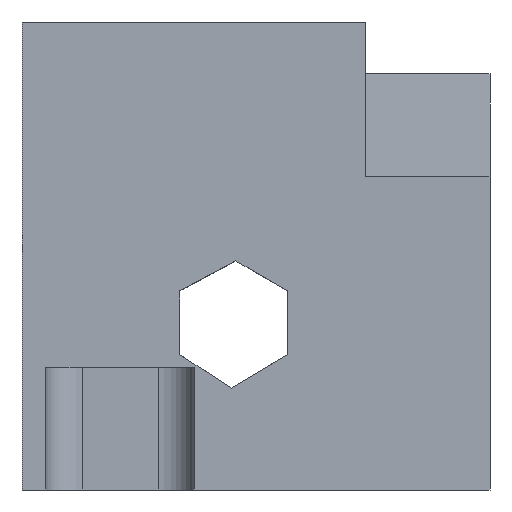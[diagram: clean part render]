
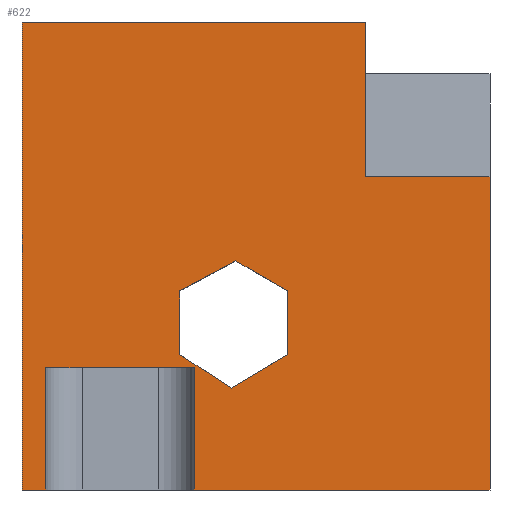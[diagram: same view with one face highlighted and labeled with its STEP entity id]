
A CAD part, left-side view. The second image highlights one B-rep face of the part: STEP entity #622.
In plain terms, the highlighted planar face has unit normal (-1, 0, 0).
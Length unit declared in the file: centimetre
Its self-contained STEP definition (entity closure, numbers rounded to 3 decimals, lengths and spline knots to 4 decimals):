
#20 = ORIENTED_EDGE ( 'NONE', *, *, #807, .T. ) ;
#26 = ORIENTED_EDGE ( 'NONE', *, *, #966, .F. ) ;
#28 = ORIENTED_EDGE ( 'NONE', *, *, #382, .F. ) ;
#36 = ORIENTED_EDGE ( 'NONE', *, *, #840, .F. ) ;
#37 = VERTEX_POINT ( 'NONE', #780 ) ;
#49 = CARTESIAN_POINT ( 'NONE',  ( 0., 1000., 0. ) ) ;
#52 = CARTESIAN_POINT ( 'NONE',  ( 0., 948.898, 261.4544 ) ) ;
#54 = DIRECTION ( 'NONE',  ( 0., 0., -1. ) ) ;
#71 = DIRECTION ( 'NONE',  ( 0., -0.84, -0.543 ) ) ;
#85 = VECTOR ( 'NONE', #415, 100. ) ;
#92 = DIRECTION ( 'NONE',  ( 0., 0.882, -0.471 ) ) ;
#98 = VERTEX_POINT ( 'NONE', #363 ) ;
#100 = CARTESIAN_POINT ( 'NONE',  ( 0., 543.1388, 489.4983 ) ) ;
#113 = DIRECTION ( 'NONE',  ( 0., 0., -1. ) ) ;
#117 = VERTEX_POINT ( 'NONE', #1324 ) ;
#122 = EDGE_CURVE ( 'NONE', #699, #98, #891, .T. ) ;
#131 = VECTOR ( 'NONE', #54, 100. ) ;
#134 = ORIENTED_EDGE ( 'NONE', *, *, #430, .F. ) ;
#175 = VECTOR ( 'NONE', #1199, 100. ) ;
#180 = CARTESIAN_POINT ( 'NONE',  ( 0., 1000., 1000. ) ) ;
#231 = CARTESIAN_POINT ( 'NONE',  ( 0., 663.0759, 289.4523 ) ) ;
#242 = VECTOR ( 'NONE', #779, 100. ) ;
#250 = EDGE_LOOP ( 'NONE', ( #1190, #408, #789, #28, #1399, #1023, #20, #26, #714, #741 ) ) ;
#253 = VECTOR ( 'NONE', #1327, 100. ) ;
#260 = CARTESIAN_POINT ( 'NONE',  ( 0., 631.543, 261.4544 ) ) ;
#275 = LINE ( 'NONE', #815, #131 ) ;
#277 = VERTEX_POINT ( 'NONE', #1176 ) ;
#282 = FACE_OUTER_BOUND ( 'NONE', #250, .T. ) ;
#296 = EDGE_CURVE ( 'NONE', #659, #1012, #771, .T. ) ;
#301 = DIRECTION ( 'NONE',  ( 0., -0.858, 0.514 ) ) ;
#322 = LINE ( 'NONE', #1121, #1032 ) ;
#328 = LINE ( 'NONE', #554, #175 ) ;
#344 = LINE ( 'NONE', #1236, #1185 ) ;
#363 = CARTESIAN_POINT ( 'NONE',  ( 0., 0., 669.5965 ) ) ;
#375 = VECTOR ( 'NONE', #493, 100. ) ;
#380 = LINE ( 'NONE', #1053, #1007 ) ;
#382 = EDGE_CURVE ( 'NONE', #976, #853, #665, .T. ) ;
#385 = PLANE ( 'NONE',  #1270 ) ;
#398 = VECTOR ( 'NONE', #92, 100. ) ;
#408 = ORIENTED_EDGE ( 'NONE', *, *, #122, .F. ) ;
#415 = DIRECTION ( 'NONE',  ( 0., 0., 1. ) ) ;
#418 = VECTOR ( 'NONE', #940, 100. ) ;
#427 = VERTEX_POINT ( 'NONE', #717 ) ;
#430 = EDGE_CURVE ( 'NONE', #1012, #836, #1378, .T. ) ;
#454 = LINE ( 'NONE', #1103, #679 ) ;
#463 = CARTESIAN_POINT ( 'NONE',  ( 0., 432.0827, 425.38 ) ) ;
#473 = VECTOR ( 'NONE', #1129, 100. ) ;
#475 = CARTESIAN_POINT ( 'NONE',  ( 0., 1000., 0. ) ) ;
#483 = LINE ( 'NONE', #1283, #516 ) ;
#486 = CARTESIAN_POINT ( 'NONE',  ( 0., 432.0827, 289.4523 ) ) ;
#493 = DIRECTION ( 'NONE',  ( 0., 0.866, 0.5 ) ) ;
#512 = ORIENTED_EDGE ( 'NONE', *, *, #1363, .F. ) ;
#516 = VECTOR ( 'NONE', #301, 100. ) ;
#554 = CARTESIAN_POINT ( 'NONE',  ( 0., 1000., 261.4544 ) ) ;
#574 = DIRECTION ( 'NONE',  ( 0., 0., -1. ) ) ;
#586 = LINE ( 'NONE', #475, #1184 ) ;
#594 = DIRECTION ( 'NONE',  ( 0., -1., 0. ) ) ;
#596 = LINE ( 'NONE', #49, #418 ) ;
#618 = DIRECTION ( 'NONE',  ( 1., 0., 0. ) ) ;
#621 = CARTESIAN_POINT ( 'NONE',  ( 0., 432.0827, 425.38 ) ) ;
#622 = ADVANCED_FACE ( 'NONE', ( #1375, #282 ), #385, .F. ) ;
#648 = CARTESIAN_POINT ( 'NONE',  ( 0., 631.543, 0. ) ) ;
#656 = CARTESIAN_POINT ( 'NONE',  ( 0., 552.0197, 217.6429 ) ) ;
#659 = VERTEX_POINT ( 'NONE', #486 ) ;
#665 = LINE ( 'NONE', #1042, #242 ) ;
#666 = ORIENTED_EDGE ( 'NONE', *, *, #1380, .F. ) ;
#679 = VECTOR ( 'NONE', #1027, 100. ) ;
#688 = LINE ( 'NONE', #260, #473 ) ;
#695 = EDGE_CURVE ( 'NONE', #898, #1122, #596, .T. ) ;
#696 = CARTESIAN_POINT ( 'NONE',  ( 0., 267.0914, 669.5965 ) ) ;
#699 = VERTEX_POINT ( 'NONE', #1140 ) ;
#712 = EDGE_CURVE ( 'NONE', #853, #699, #275, .T. ) ;
#713 = VECTOR ( 'NONE', #1342, 100. ) ;
#714 = ORIENTED_EDGE ( 'NONE', *, *, #1157, .T. ) ;
#717 = CARTESIAN_POINT ( 'NONE',  ( 0., 948.898, 0. ) ) ;
#741 = ORIENTED_EDGE ( 'NONE', *, *, #695, .T. ) ;
#745 = CARTESIAN_POINT ( 'NONE',  ( 0., 948.898, 261.4544 ) ) ;
#760 = CARTESIAN_POINT ( 'NONE',  ( 0., 543.1388, 489.4983 ) ) ;
#771 = LINE ( 'NONE', #1105, #253 ) ;
#779 = DIRECTION ( 'NONE',  ( 0., -1., 0. ) ) ;
#780 = CARTESIAN_POINT ( 'NONE',  ( 0., 663.0759, 425.38 ) ) ;
#789 = ORIENTED_EDGE ( 'NONE', *, *, #712, .F. ) ;
#807 = EDGE_CURVE ( 'NONE', #427, #1106, #984, .T. ) ;
#815 = CARTESIAN_POINT ( 'NONE',  ( 0., 267.0914, 669.5965 ) ) ;
#836 = VERTEX_POINT ( 'NONE', #100 ) ;
#840 = EDGE_CURVE ( 'NONE', #836, #37, #852, .T. ) ;
#852 = LINE ( 'NONE', #760, #398 ) ;
#853 = VERTEX_POINT ( 'NONE', #1189 ) ;
#891 = LINE ( 'NONE', #696, #713 ) ;
#898 = VERTEX_POINT ( 'NONE', #648 ) ;
#908 = VERTEX_POINT ( 'NONE', #656 ) ;
#940 = DIRECTION ( 'NONE',  ( 0., -1., 0. ) ) ;
#955 = EDGE_CURVE ( 'NONE', #37, #964, #344, .T. ) ;
#960 = EDGE_CURVE ( 'NONE', #976, #277, #454, .T. ) ;
#964 = VERTEX_POINT ( 'NONE', #231 ) ;
#966 = EDGE_CURVE ( 'NONE', #117, #1106, #328, .T. ) ;
#976 = VERTEX_POINT ( 'NONE', #997 ) ;
#984 = LINE ( 'NONE', #745, #85 ) ;
#997 = CARTESIAN_POINT ( 'NONE',  ( 0., 1000., 1000. ) ) ;
#1007 = VECTOR ( 'NONE', #71, 100. ) ;
#1012 = VERTEX_POINT ( 'NONE', #463 ) ;
#1015 = EDGE_CURVE ( 'NONE', #98, #1122, #322, .T. ) ;
#1020 = ORIENTED_EDGE ( 'NONE', *, *, #296, .F. ) ;
#1023 = ORIENTED_EDGE ( 'NONE', *, *, #1112, .T. ) ;
#1027 = DIRECTION ( 'NONE',  ( 0., 0., -1. ) ) ;
#1032 = VECTOR ( 'NONE', #574, 100. ) ;
#1042 = CARTESIAN_POINT ( 'NONE',  ( 0., 1000., 1000. ) ) ;
#1053 = CARTESIAN_POINT ( 'NONE',  ( 0., 663.0759, 289.4523 ) ) ;
#1084 = EDGE_LOOP ( 'NONE', ( #1095, #36, #134, #1020, #666, #512 ) ) ;
#1095 = ORIENTED_EDGE ( 'NONE', *, *, #955, .F. ) ;
#1103 = CARTESIAN_POINT ( 'NONE',  ( 0., 1000., 1000. ) ) ;
#1105 = CARTESIAN_POINT ( 'NONE',  ( 0., 432.0827, 289.4523 ) ) ;
#1106 = VERTEX_POINT ( 'NONE', #52 ) ;
#1112 = EDGE_CURVE ( 'NONE', #277, #427, #586, .T. ) ;
#1121 = CARTESIAN_POINT ( 'NONE',  ( 0., 0., 1000. ) ) ;
#1122 = VERTEX_POINT ( 'NONE', #1234 ) ;
#1129 = DIRECTION ( 'NONE',  ( 0., 0., -1. ) ) ;
#1140 = CARTESIAN_POINT ( 'NONE',  ( 0., 267.0914, 669.5965 ) ) ;
#1157 = EDGE_CURVE ( 'NONE', #117, #898, #688, .T. ) ;
#1176 = CARTESIAN_POINT ( 'NONE',  ( 0., 1000., 0. ) ) ;
#1184 = VECTOR ( 'NONE', #594, 100. ) ;
#1185 = VECTOR ( 'NONE', #113, 100. ) ;
#1189 = CARTESIAN_POINT ( 'NONE',  ( 0., 267.0914, 1000. ) ) ;
#1190 = ORIENTED_EDGE ( 'NONE', *, *, #1015, .F. ) ;
#1199 = DIRECTION ( 'NONE',  ( 0., 1., 0. ) ) ;
#1234 = CARTESIAN_POINT ( 'NONE',  ( 0., 0., 0. ) ) ;
#1236 = CARTESIAN_POINT ( 'NONE',  ( 0., 663.0759, 425.38 ) ) ;
#1262 = DIRECTION ( 'NONE',  ( 0., 0., -1. ) ) ;
#1270 = AXIS2_PLACEMENT_3D ( 'NONE', #180, #618, #1262 ) ;
#1283 = CARTESIAN_POINT ( 'NONE',  ( 0., 552.0197, 217.6429 ) ) ;
#1324 = CARTESIAN_POINT ( 'NONE',  ( 0., 631.543, 261.4544 ) ) ;
#1327 = DIRECTION ( 'NONE',  ( 0., 0., 1. ) ) ;
#1342 = DIRECTION ( 'NONE',  ( 0., -1., 0. ) ) ;
#1363 = EDGE_CURVE ( 'NONE', #964, #908, #380, .T. ) ;
#1375 = FACE_BOUND ( 'NONE', #1084, .T. ) ;
#1378 = LINE ( 'NONE', #621, #375 ) ;
#1380 = EDGE_CURVE ( 'NONE', #908, #659, #483, .T. ) ;
#1399 = ORIENTED_EDGE ( 'NONE', *, *, #960, .T. ) ;
